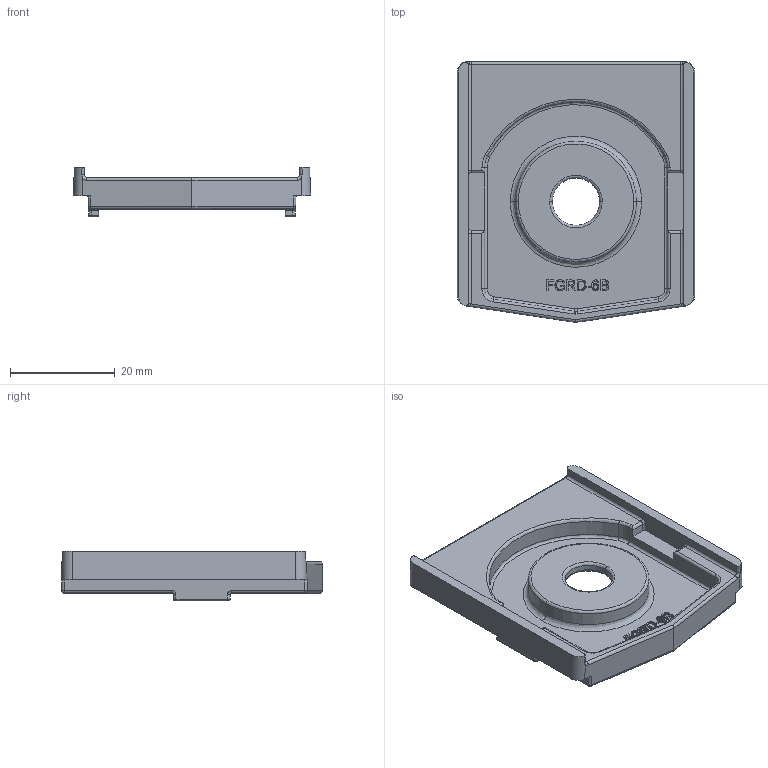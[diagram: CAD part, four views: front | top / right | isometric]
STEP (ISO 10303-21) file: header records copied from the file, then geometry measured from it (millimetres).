
FILE_DESCRIPTION (( 'STEP AP214' ), '1' );
FILE_NAME ('FABER - FGRD 6B.STEP', '2017-04-05T12:11:14', ( '' ), ( '' ), 'SwSTEP 2.0', 'SolidWorks 2016', '' );
FILE_SCHEMA (( 'AUTOMOTIVE_DESIGN' ));
Length unit declared in the file: millimetre
Products named in the file (1): FABER - FGRD 6B
Bounding box: 45.24 x 49.73 x 9.5 mm (x, y, z)
Volume: 7147.9 mm3; surface area: 6988.3 mm2
Topology: 1 solids, 1 shells, 385 faces, 967 edges, 610 vertices
Faces by surface type: plane 164, bspline 140, cylinder 81
Entity records: 22498 total; most frequent: CARTESIAN_POINT 14271, ORIENTED_EDGE 1934, DIRECTION 1272, EDGE_CURVE 967, VERTEX_POINT 610, LINE 568, VECTOR 568, EDGE_LOOP 413
